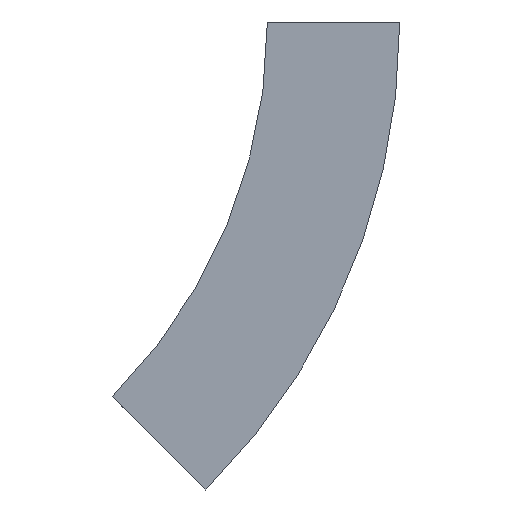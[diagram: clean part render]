
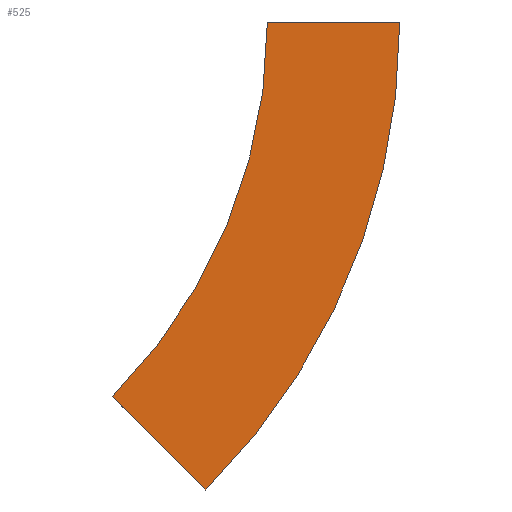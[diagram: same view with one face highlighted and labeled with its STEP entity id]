
A CAD part, left-side view. The second image highlights one B-rep face of the part: STEP entity #525.
In plain terms, the highlighted planar face has unit normal (-1, 0, 0) as drawn and (1, 0, 0) by its records, which use the part's own axes.
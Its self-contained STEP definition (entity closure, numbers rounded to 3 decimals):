
#14 = CIRCLE ( 'NONE', #377, 375. ) ;
#24 = FACE_OUTER_BOUND ( 'NONE', #562, .T. ) ;
#33 = VERTEX_POINT ( 'NONE', #119 ) ;
#35 = ORIENTED_EDGE ( 'NONE', *, *, #418, .T. ) ;
#46 = VECTOR ( 'NONE', #94, 1000. ) ;
#83 = AXIS2_PLACEMENT_3D ( 'NONE', #372, #100, #455 ) ;
#94 = DIRECTION ( 'NONE',  ( 0., 1., 0. ) ) ;
#100 = DIRECTION ( 'NONE',  ( -1., 0., 0. ) ) ;
#115 = VECTOR ( 'NONE', #260, 1000. ) ;
#119 = CARTESIAN_POINT ( 'NONE',  ( 0., 87.868, -212.132 ) ) ;
#143 = CARTESIAN_POINT ( 'NONE',  ( 0., -75., 0. ) ) ;
#177 = DIRECTION ( 'NONE',  ( 0., -1., 0. ) ) ;
#223 = EDGE_CURVE ( 'NONE', #365, #33, #428, .T. ) ;
#228 = CARTESIAN_POINT ( 'NONE',  ( 0., 300., 0. ) ) ;
#238 = ORIENTED_EDGE ( 'NONE', *, *, #223, .T. ) ;
#260 = DIRECTION ( 'NONE',  ( 0., 0.707, 0.707 ) ) ;
#265 = DIRECTION ( 'NONE',  ( 0., -1., 0. ) ) ;
#266 = ORIENTED_EDGE ( 'NONE', *, *, #328, .F. ) ;
#268 = CARTESIAN_POINT ( 'NONE',  ( 0., -75., 0. ) ) ;
#289 = PLANE ( 'NONE',  #83 ) ;
#312 = AXIS2_PLACEMENT_3D ( 'NONE', #558, #528, #265 ) ;
#315 = LINE ( 'NONE', #143, #46 ) ;
#328 = EDGE_CURVE ( 'NONE', #414, #33, #478, .T. ) ;
#350 = VERTEX_POINT ( 'NONE', #268 ) ;
#365 = VERTEX_POINT ( 'NONE', #526 ) ;
#372 = CARTESIAN_POINT ( 'NONE',  ( 0., -75., 0. ) ) ;
#377 = AXIS2_PLACEMENT_3D ( 'NONE', #228, #442, #177 ) ;
#381 = EDGE_CURVE ( 'NONE', #350, #414, #315, .T. ) ;
#414 = VERTEX_POINT ( 'NONE', #530 ) ;
#418 = EDGE_CURVE ( 'NONE', #350, #365, #14, .T. ) ;
#428 = LINE ( 'NONE', #515, #115 ) ;
#442 = DIRECTION ( 'NONE',  ( 1., 0., 0. ) ) ;
#455 = DIRECTION ( 'NONE',  ( 0., 0., 1. ) ) ;
#476 = ORIENTED_EDGE ( 'NONE', *, *, #381, .F. ) ;
#478 = CIRCLE ( 'NONE', #312, 300. ) ;
#515 = CARTESIAN_POINT ( 'NONE',  ( 0., 34.835, -265.165 ) ) ;
#525 = ADVANCED_FACE ( 'NONE', ( #24 ), #289, .F. ) ;
#526 = CARTESIAN_POINT ( 'NONE',  ( 0., 34.835, -265.165 ) ) ;
#528 = DIRECTION ( 'NONE',  ( 1., 0., 0. ) ) ;
#530 = CARTESIAN_POINT ( 'NONE',  ( 0., 0., 0. ) ) ;
#558 = CARTESIAN_POINT ( 'NONE',  ( 0., 300., 0. ) ) ;
#562 = EDGE_LOOP ( 'NONE', ( #266, #476, #35, #238 ) ) ;
